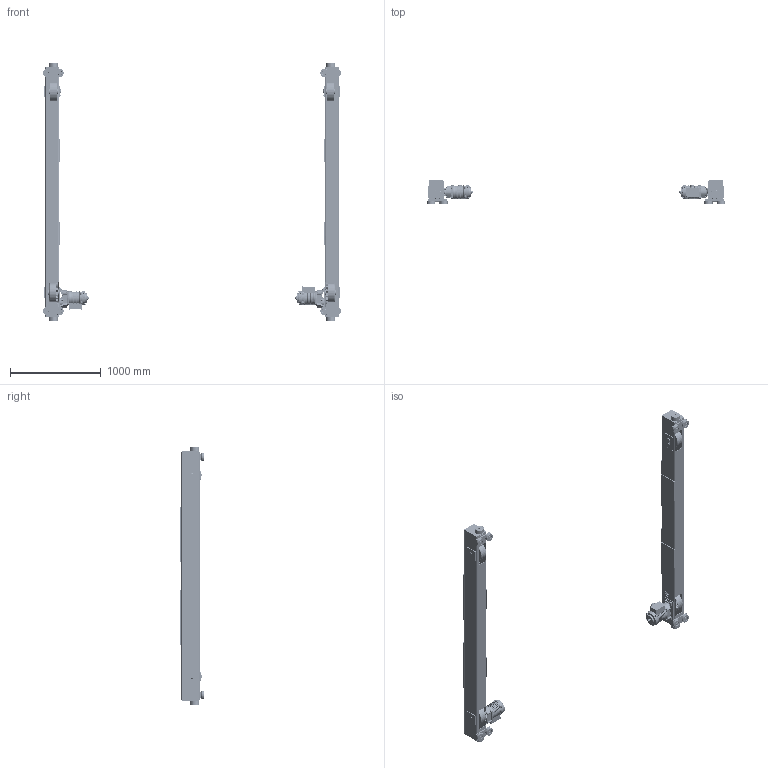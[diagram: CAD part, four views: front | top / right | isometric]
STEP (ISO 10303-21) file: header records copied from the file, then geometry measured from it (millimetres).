
FILE_DESCRIPTION (( 'STEP AP214' ), '1' );
FILE_NAME ('MTMH-3-0560.STEP', '2026-08-14T13:52:58', ( '' ), ( '' ), 'SwSTEP 2.0', 'SolidWorks 2026', '' );
FILE_SCHEMA (( 'AUTOMOTIVE_DESIGN' ));
Length unit declared in the file: inch
Products named in the file (71): G1JE040S9701; 6244508; 9012709_Rectangular section spring washer BS 4464 - 16 (Type B); 6244509; 9012707_9012707; G1JE040S9707; G1JE075S9609; 6232404; N6QO450E91013; N6QO310E9108_N6QO3101108 DOMESTIC; G1JE040S9310; 6251201_25#; N6QO4501101; 6244501; 62587; 6240820; 9047252_9047252; 6232305; 6244510; 9091256_B18.3.1M - 6 x 1.0 x 50 Hex SHCS -- 24CHX; N6QO450E9102; 9047125_B27.7M - 3AM1-23; G1JE075S9610; N6QO4501102; 6251001; 9012514_9012514; N6QO450E91311; N6QO375207; 9000605; 6250901; G1JE040S9401; 6240805X_6240805A; 9093330_9093330; G1JM075T_ROTATED 180 DEGREES; 6251101_25#; G1JE040S9303; 9093101_9093101; 9000709; 9798526_9798526; MS555010_MS555010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
Assembly tree (251 placements, depth 4):
  MTMH-3-0560
    6251101_25#
      6250901
        T800-600-004_107.4375
        6240820
        6240818
        6240818
        6244510
        6244510
        6244510
      6244509  x2
      6244508  x2
      6240817X_6240817A  x2
        6240805X_6240805A
        6232305
      6244519
      6244501
      6244502
      6244503
    6251201_25#
      6251001
        T800-600-004_107.4375
        6240820
        6240818
        6240818
        6244510
        6244510
        6244510
      6244509  x2
      6244508  x2
      6240817X_6240817A  x2
        6240805X_6240805A
        6232305
      6244519
      6244501
      6244502
      6244503
    6244517  x4
    6244513  x4
    9012711_9012711  x20
    9093327_9093327  x8
    N6QO4501101  x2
      N6QO450E91013
      N6QO450E91311
      9000709
      9091272_9091272
      9012711_9012711
    N6QO4501102  x2
      N6QO450E9102
      9000709
    N6QO3101108_N6QO3101108  x8
      N6QO310E9108_N6QO3101108 DOMESTIC
      9047252_9047252
      9000605
    6232404  x8
    9047125_B27.7M - 3AM1-23  x8
    N6QO375207  x4
    9012514_9012514  x4
    9093101_9093101  x4
    G1JM075T_NORMAL
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Bounding box: 3275.62 x 261.94 x 2844.96 mm (x, y, z)
Volume: 51492305.9 mm3; surface area: 12463002.3 mm2
Topology: 274 solids, 338 shells, 16648 faces, 42854 edges, 27566 vertices
Faces by surface type: plane 8998, cylinder 3676, bspline 2058, torus 902, cone 838, sphere 176
Entity records: 186221 total; most frequent: CARTESIAN_POINT 78099, ORIENTED_EDGE 22144, DIRECTION 19859, EDGE_CURVE 11076, AXIS2_PLACEMENT_3D 7381, VERTEX_POINT 7086, VECTOR 5097, LINE 5097
